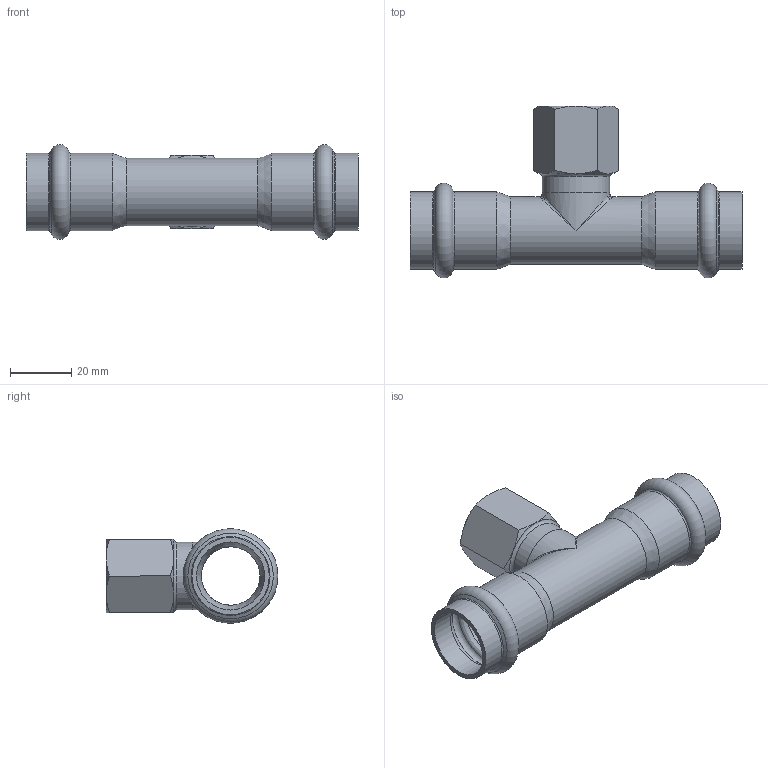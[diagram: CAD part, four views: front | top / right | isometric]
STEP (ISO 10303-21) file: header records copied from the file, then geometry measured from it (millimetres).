
FILE_DESCRIPTION((''),'2;1');
FILE_NAME('G:\Nirosan-Schmiedefeld\Technics\CAD\Bauteile VA\022\69130g221222(2).stp','2011-05-19T10:38:58',('herberg'),(''),'Autodesk Inventor 2009','Autodesk Inventor 2009','');
FILE_SCHEMA(('AUTOMOTIVE_DESIGN { 1 0 10303 214 1 1 1 1 }'));
Length unit declared in the file: millimetre
Products named in the file (3): 69130g221222(2); LM_6913022(2); IG2212(1)
Assembly tree (2 placements, depth 2):
  69130g221222(2)
    LM_6913022(2)
    IG2212(1)
Bounding box: 108 x 55.89 x 30.79 mm (x, y, z)
Volume: 17646.1 mm3; surface area: 20787.9 mm2
Topology: 2 solids, 2 shells, 65 faces, 146 edges, 78 vertices
Faces by surface type: cone 21, bspline 16, cylinder 13, plane 11, torus 4
Full cylindrical faces by diameter (mm): 19 x2, 22 x3, 22.15 x4, 25.15 x4
Entity records: 2514 total; most frequent: CARTESIAN_POINT 1335, DIRECTION 236, ORIENTED_EDGE 182, AXIS2_PLACEMENT_3D 115, EDGE_LOOP 110, EDGE_CURVE 91, VERTEX_POINT 69, FACE_OUTER_BOUND 65
